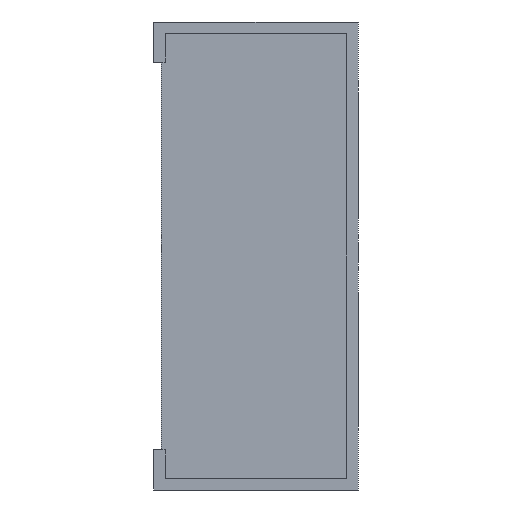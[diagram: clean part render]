
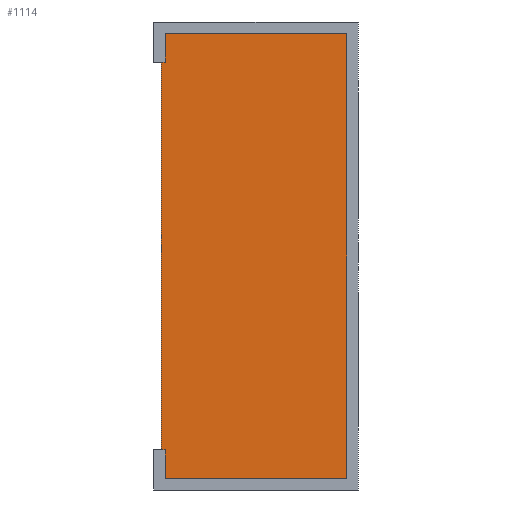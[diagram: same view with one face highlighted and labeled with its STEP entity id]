
A CAD part, left-side view. The second image highlights one B-rep face of the part: STEP entity #1114.
In plain terms, the highlighted planar face has unit normal (-1, 0, 0).
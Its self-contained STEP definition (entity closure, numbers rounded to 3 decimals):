
#45 = LINE ( 'NONE', #427, #888 ) ;
#51 = LINE ( 'NONE', #932, #1369 ) ;
#164 = DIRECTION ( 'NONE',  ( 0., 0., 1. ) ) ;
#176 = VERTEX_POINT ( 'NONE', #647 ) ;
#198 = CARTESIAN_POINT ( 'NONE',  ( -16.3, -23.1, -46.7 ) ) ;
#237 = VERTEX_POINT ( 'NONE', #1002 ) ;
#301 = DIRECTION ( 'NONE',  ( 0., 0., 1. ) ) ;
#322 = CARTESIAN_POINT ( 'NONE',  ( -16.3, -23.1, -97.838 ) ) ;
#332 = EDGE_CURVE ( 'NONE', #237, #1242, #51, .T. ) ;
#427 = CARTESIAN_POINT ( 'NONE',  ( -16.3, 16.3, -97.838 ) ) ;
#448 = FACE_OUTER_BOUND ( 'NONE', #541, .T. ) ;
#541 = EDGE_LOOP ( 'NONE', ( #563, #1062, #750, #945 ) ) ;
#563 = ORIENTED_EDGE ( 'NONE', *, *, #1039, .F. ) ;
#581 = LINE ( 'NONE', #198, #1286 ) ;
#647 = CARTESIAN_POINT ( 'NONE',  ( -16.3, -20.8, -46.7 ) ) ;
#750 = ORIENTED_EDGE ( 'NONE', *, *, #332, .T. ) ;
#797 = DIRECTION ( 'NONE',  ( 0., 1., 0. ) ) ;
#828 = DIRECTION ( 'NONE',  ( 1., 0., 0. ) ) ;
#888 = VECTOR ( 'NONE', #164, 1000. ) ;
#923 = EDGE_CURVE ( 'NONE', #176, #237, #1189, .T. ) ;
#932 = CARTESIAN_POINT ( 'NONE',  ( -16.3, -23.1, 46.7 ) ) ;
#945 = ORIENTED_EDGE ( 'NONE', *, *, #1239, .F. ) ;
#946 = PLANE ( 'NONE',  #1421 ) ;
#957 = VERTEX_POINT ( 'NONE', #1297 ) ;
#1002 = CARTESIAN_POINT ( 'NONE',  ( -16.3, -20.8, 46.7 ) ) ;
#1039 = EDGE_CURVE ( 'NONE', #176, #957, #581, .T. ) ;
#1062 = ORIENTED_EDGE ( 'NONE', *, *, #923, .T. ) ;
#1114 = ADVANCED_FACE ( 'NONE', ( #448 ), #946, .F. ) ;
#1133 = VECTOR ( 'NONE', #301, 1000. ) ;
#1134 = DIRECTION ( 'NONE',  ( 0., 0., -1. ) ) ;
#1189 = LINE ( 'NONE', #1433, #1133 ) ;
#1239 = EDGE_CURVE ( 'NONE', #957, #1242, #45, .T. ) ;
#1242 = VERTEX_POINT ( 'NONE', #1431 ) ;
#1286 = VECTOR ( 'NONE', #1354, 1000. ) ;
#1297 = CARTESIAN_POINT ( 'NONE',  ( -16.3, 16.3, -46.7 ) ) ;
#1354 = DIRECTION ( 'NONE',  ( 0., 1., 0. ) ) ;
#1369 = VECTOR ( 'NONE', #797, 1000. ) ;
#1421 = AXIS2_PLACEMENT_3D ( 'NONE', #322, #828, #1134 ) ;
#1431 = CARTESIAN_POINT ( 'NONE',  ( -16.3, 16.3, 46.7 ) ) ;
#1433 = CARTESIAN_POINT ( 'NONE',  ( -16.3, -20.8, 46.7 ) ) ;
